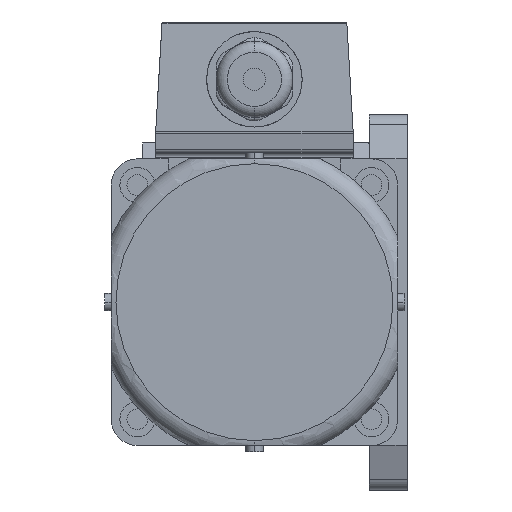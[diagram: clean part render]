
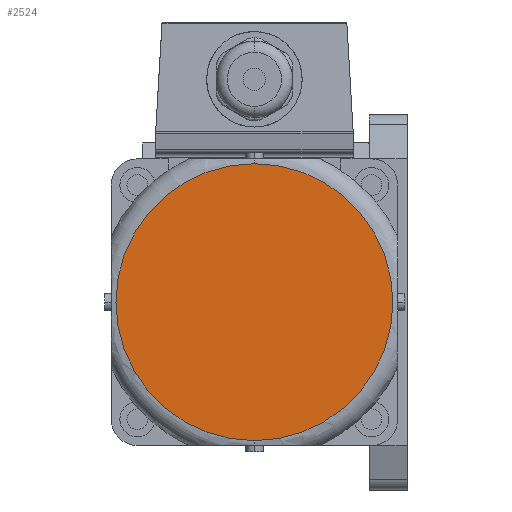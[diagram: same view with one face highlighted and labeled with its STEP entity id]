
A CAD part, left-side view. The second image highlights one B-rep face of the part: STEP entity #2524.
In plain terms, the highlighted planar face has unit normal (-1, 0, 0).
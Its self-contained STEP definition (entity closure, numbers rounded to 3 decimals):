
#2504=CARTESIAN_POINT('POINT204604',(-211.5,48.,26.5));
#2505=VERTEX_POINT('VERTEX204604',#2504);
#2506=CARTESIAN_POINT('POINT204605',(-211.5,48.,-60.5));
#2507=VERTEX_POINT('VERTEX204605',#2506);
#2508=CARTESIAN_POINT('POS334792',(-211.5,48.,-17.));
#2509=DIRECTION('DIR505137',(-1.,0.,0.));
#2510=DIRECTION('DIR505138',(0.,0.,-1.));
#2511=AXIS2_PLACEMENT_3D('AXIS170346',#2508,#2509,#2510);
#2512=CIRCLE('ELLIPSE80664',#2511,43.5);
#2513=EDGE_CURVE('EDGE313152',#2505,#2507,#2512,.T.);
#2514=ORIENTED_EDGE('COEDGE626279',*,*,#2513,.T.);
#2515=EDGE_CURVE('EDGE313153',#2507,#2505,#2512,.T.);
#2516=ORIENTED_EDGE('COEDGE626280',*,*,#2515,.T.);
#2517=EDGE_LOOP('NONE',(#2514,#2516));
#2518=FACE_BOUND('LOOP1',#2517,.T.);
#2519=CARTESIAN_POINT('POS334793',(-211.5,48.,
   5.25));
#2520=DIRECTION('DIR505139',(-1.,0.,0.));
#2521=DIRECTION('DIR505140',(0.,1.,0.));
#2522=AXIS2_PLACEMENT_3D('AXIS170347',#2519,#2520,#2521);
#2523=PLANE('PLANE54066',#2522);
#2524=ADVANCED_FACE('FACE128676',(#2518),#2523,.T.);
